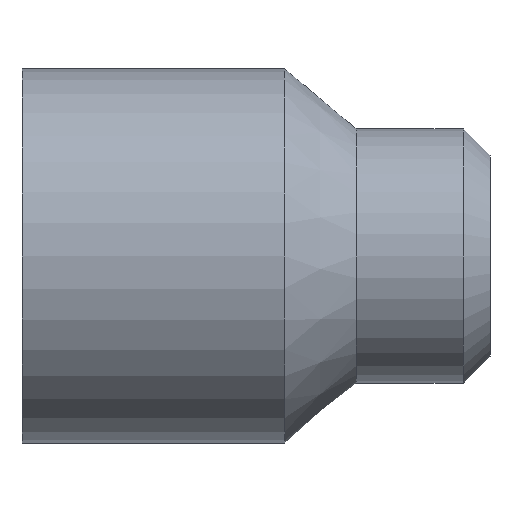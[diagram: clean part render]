
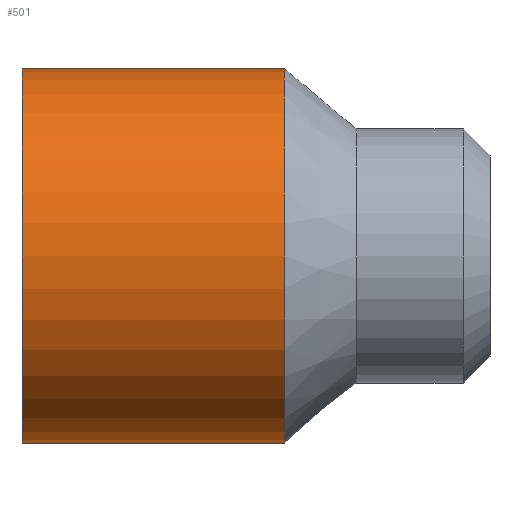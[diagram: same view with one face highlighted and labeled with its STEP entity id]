
A CAD part, front view. The second image highlights one B-rep face of the part: STEP entity #501.
In plain terms, the highlighted cylindrical face has radius 14 mm (diameter 28 mm), a partial arc.
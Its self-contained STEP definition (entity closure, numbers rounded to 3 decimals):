
#32=CARTESIAN_POINT('',(31.24,0.,76.44));
#33=VERTEX_POINT('',#32);
#42=CARTESIAN_POINT('',(31.24,-0.,48.44));
#43=VERTEX_POINT('',#42);
#51=CARTESIAN_POINT('',(31.24,0.,62.44));
#52=DIRECTION('',(1.,0.,0.));
#53=DIRECTION('',(0.,0.,-1.));
#54=AXIS2_PLACEMENT_3D('',#51,#52,#53);
#55=CIRCLE('',#54,14.);
#56=EDGE_CURVE('',#33,#43,#55,.T.);
#384=CARTESIAN_POINT('',(50.877,0.,76.44));
#385=VERTEX_POINT('',#384);
#401=CARTESIAN_POINT('',(50.877,-0.,48.44));
#402=VERTEX_POINT('',#401);
#403=CARTESIAN_POINT('',(50.877,0.,62.44));
#404=DIRECTION('',(1.,0.,0.));
#405=DIRECTION('',(0.,0.,-1.));
#406=AXIS2_PLACEMENT_3D('',#403,#404,#405);
#407=CIRCLE('',#406,14.);
#408=EDGE_CURVE('',#385,#402,#407,.T.);
#425=CARTESIAN_POINT('',(50.877,0.,48.44));
#426=DIRECTION('',(-1.,-0.,0.));
#427=VECTOR('',#426,19.637);
#428=LINE('',#425,#427);
#429=EDGE_CURVE('',#402,#43,#428,.T.);
#432=CARTESIAN_POINT('',(50.877,0.,76.44));
#433=DIRECTION('',(-1.,0.,0.));
#434=VECTOR('',#433,19.637);
#435=LINE('',#432,#434);
#436=EDGE_CURVE('',#385,#33,#435,.T.);
#490=CARTESIAN_POINT('',(66.24,0.,62.44));
#491=DIRECTION('',(1.,0.,0.));
#492=DIRECTION('',(0.,0.,-1.));
#493=AXIS2_PLACEMENT_3D('',#490,#491,#492);
#494=CYLINDRICAL_SURFACE('',#493,14.);
#495=ORIENTED_EDGE('',*,*,#429,.F.);
#496=ORIENTED_EDGE('',*,*,#408,.F.);
#497=ORIENTED_EDGE('',*,*,#436,.T.);
#498=ORIENTED_EDGE('',*,*,#56,.T.);
#499=EDGE_LOOP('',(#495,#496,#497,#498));
#500=FACE_BOUND('',#499,.T.);
#501=ADVANCED_FACE('',(#500),#494,.T.);
